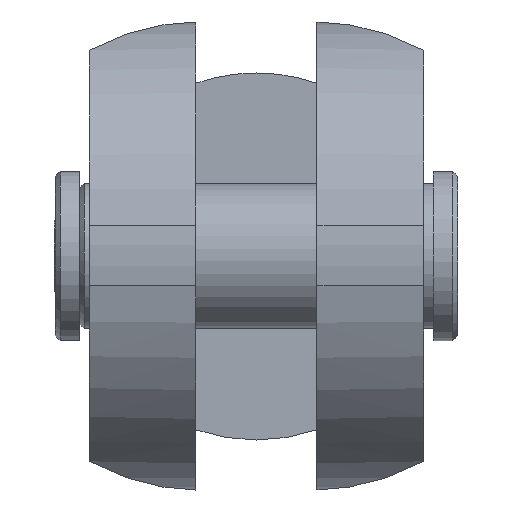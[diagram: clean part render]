
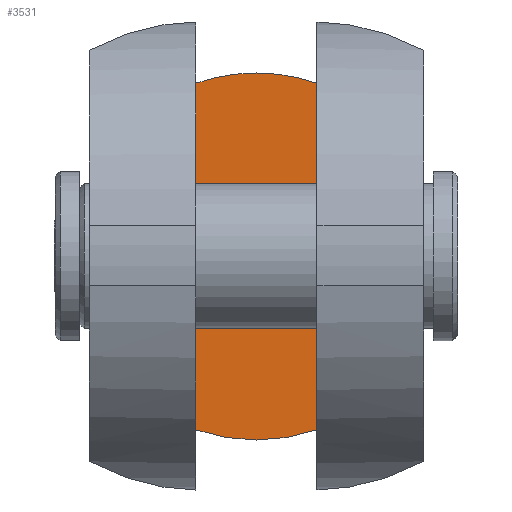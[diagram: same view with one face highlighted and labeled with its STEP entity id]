
A CAD part, top view. The second image highlights one B-rep face of the part: STEP entity #3531.
In plain terms, the highlighted planar face has unit normal (0, 0, 1).
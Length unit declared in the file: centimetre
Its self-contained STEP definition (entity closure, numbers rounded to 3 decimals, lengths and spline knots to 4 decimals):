
#351=LINE('',#5755,#699);
#352=LINE('',#5757,#700);
#699=VECTOR('',#4451,14.2951);
#700=VECTOR('',#4454,14.2951);
#914=PLANE('',#3733);
#1151=FACE_OUTER_BOUND('',#1369,.T.);
#1369=EDGE_LOOP('',(#3067,#3068,#3069,#3070));
#1437=CIRCLE('',#3587,7.5721);
#1438=CIRCLE('',#3588,7.5721);
#1490=VERTEX_POINT('',#4627);
#1491=VERTEX_POINT('',#4631);
#1496=VERTEX_POINT('',#4667);
#1497=VERTEX_POINT('',#4671);
#1806=EDGE_CURVE('',#1490,#1491,#1437,.T.);
#1812=EDGE_CURVE('',#1496,#1497,#1438,.T.);
#2207=EDGE_CURVE('',#1497,#1490,#351,.T.);
#2208=EDGE_CURVE('',#1496,#1491,#352,.T.);
#3067=ORIENTED_EDGE('',*,*,#1812,.F.);
#3068=ORIENTED_EDGE('',*,*,#2208,.T.);
#3069=ORIENTED_EDGE('',*,*,#1806,.F.);
#3070=ORIENTED_EDGE('',*,*,#2207,.F.);
#3531=ADVANCED_FACE('',(#1151),#914,.F.);
#3587=AXIS2_PLACEMENT_3D('',#4632,#3825,#3826);
#3588=AXIS2_PLACEMENT_3D('',#4672,#3827,#3828);
#3733=AXIS2_PLACEMENT_3D('',#5756,#4452,#4453);
#3825=DIRECTION('center_axis',(0.,0.,
-1.));
#3826=DIRECTION('ref_axis',(0.,1.,0.));
#3827=DIRECTION('center_axis',(0.,0.,
-1.));
#3828=DIRECTION('ref_axis',(0.,1.,0.));
#4451=DIRECTION('',(0.,-1.,0.));
#4452=DIRECTION('center_axis',(0.,0.,
-1.));
#4453=DIRECTION('ref_axis',(1.,0.,0.));
#4454=DIRECTION('',(0.,-1.,0.));
#4627=CARTESIAN_POINT('',(2.5,-7.1475,-11.8));
#4631=CARTESIAN_POINT('',(-2.5,-7.1475,-11.8));
#4632=CARTESIAN_POINT('Origin',(0.,0.,
-11.8));
#4667=CARTESIAN_POINT('',(-2.5,7.1475,-11.8));
#4671=CARTESIAN_POINT('',(2.5,7.1475,-11.8));
#4672=CARTESIAN_POINT('Origin',(0.,0.,
-11.8));
#5755=CARTESIAN_POINT('',(2.5,0.,-11.8));
#5756=CARTESIAN_POINT('Origin',(-2.5,0.,
-11.8));
#5757=CARTESIAN_POINT('',(-2.5,0.,-11.8));
